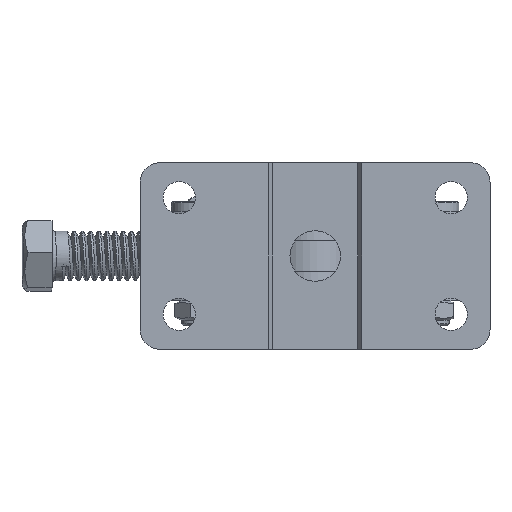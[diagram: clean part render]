
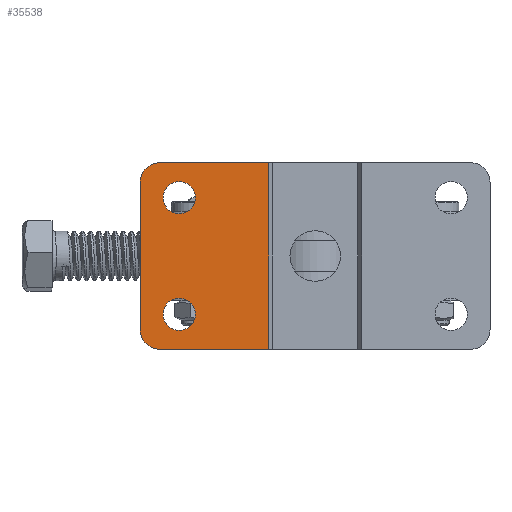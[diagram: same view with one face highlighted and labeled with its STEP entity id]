
A CAD part, front view. The second image highlights one B-rep face of the part: STEP entity #35538.
In plain terms, the highlighted planar face has unit normal (0, -1, 0).
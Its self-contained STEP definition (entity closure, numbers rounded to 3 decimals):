
#1296=FACE_BOUND('',#4655,.T.);
#1297=FACE_BOUND('',#4656,.T.);
#1395=PLANE('',#37860);
#2619=FACE_OUTER_BOUND('',#4654,.T.);
#4654=EDGE_LOOP('',(#24290,#24291,#24292,#24293,#24294,#24295));
#4655=EDGE_LOOP('',(#24296,#24297));
#4656=EDGE_LOOP('',(#24298,#24299));
#6809=LINE('',#50319,#10483);
#6811=LINE('',#50325,#10485);
#6812=LINE('',#50327,#10486);
#6813=LINE('',#50329,#10487);
#10483=VECTOR('',#40862,1000.);
#10485=VECTOR('',#40868,1000.);
#10486=VECTOR('',#40869,1000.);
#10487=VECTOR('',#40870,1000.);
#14107=CIRCLE('',#37803,4.15);
#14108=CIRCLE('',#37804,4.15);
#14119=CIRCLE('',#37818,4.15);
#14120=CIRCLE('',#37819,4.15);
#14148=CIRCLE('',#37861,5.);
#14149=CIRCLE('',#37862,5.);
#15182=VERTEX_POINT('',#50131);
#15183=VERTEX_POINT('',#50132);
#15194=VERTEX_POINT('',#50161);
#15195=VERTEX_POINT('',#50162);
#15258=VERTEX_POINT('',#50316);
#15259=VERTEX_POINT('',#50318);
#15260=VERTEX_POINT('',#50322);
#15261=VERTEX_POINT('',#50324);
#15262=VERTEX_POINT('',#50326);
#15263=VERTEX_POINT('',#50328);
#18702=EDGE_CURVE('',#15182,#15183,#14107,.T.);
#18703=EDGE_CURVE('',#15183,#15182,#14108,.T.);
#18717=EDGE_CURVE('',#15194,#15195,#14119,.T.);
#18718=EDGE_CURVE('',#15195,#15194,#14120,.T.);
#18796=EDGE_CURVE('',#15259,#15258,#6809,.T.);
#18798=EDGE_CURVE('',#15258,#15260,#14148,.T.);
#18799=EDGE_CURVE('',#15260,#15261,#6811,.T.);
#18800=EDGE_CURVE('',#15262,#15261,#6812,.T.);
#18801=EDGE_CURVE('',#15263,#15262,#6813,.T.);
#18802=EDGE_CURVE('',#15263,#15259,#14149,.T.);
#24290=ORIENTED_EDGE('',*,*,#18796,.T.);
#24291=ORIENTED_EDGE('',*,*,#18798,.T.);
#24292=ORIENTED_EDGE('',*,*,#18799,.T.);
#24293=ORIENTED_EDGE('',*,*,#18800,.F.);
#24294=ORIENTED_EDGE('',*,*,#18801,.F.);
#24295=ORIENTED_EDGE('',*,*,#18802,.T.);
#24296=ORIENTED_EDGE('',*,*,#18702,.T.);
#24297=ORIENTED_EDGE('',*,*,#18703,.T.);
#24298=ORIENTED_EDGE('',*,*,#18717,.T.);
#24299=ORIENTED_EDGE('',*,*,#18718,.T.);
#35538=ADVANCED_FACE('',(#2619,#1296,#1297),#1395,.F.);
#37803=AXIS2_PLACEMENT_3D('',#50133,#40695,#40696);
#37804=AXIS2_PLACEMENT_3D('',#50134,#40697,#40698);
#37818=AXIS2_PLACEMENT_3D('',#50163,#40728,#40729);
#37819=AXIS2_PLACEMENT_3D('',#50164,#40730,#40731);
#37860=AXIS2_PLACEMENT_3D('',#50321,#40864,#40865);
#37861=AXIS2_PLACEMENT_3D('',#50323,#40866,#40867);
#37862=AXIS2_PLACEMENT_3D('',#50330,#40871,#40872);
#40695=DIRECTION('center_axis',(0.,1.,0.));
#40696=DIRECTION('ref_axis',(0.,0.,-1.));
#40697=DIRECTION('center_axis',(0.,1.,0.));
#40698=DIRECTION('ref_axis',(0.,0.,-1.));
#40728=DIRECTION('center_axis',(0.,1.,0.));
#40729=DIRECTION('ref_axis',(0.,0.,1.));
#40730=DIRECTION('center_axis',(0.,1.,0.));
#40731=DIRECTION('ref_axis',(0.,0.,1.));
#40862=DIRECTION('',(0.,0.,-1.));
#40864=DIRECTION('center_axis',(0.,1.,0.));
#40865=DIRECTION('ref_axis',(0.,0.,1.));
#40866=DIRECTION('center_axis',(0.,-1.,0.));
#40867=DIRECTION('ref_axis',(0.,0.,1.));
#40868=DIRECTION('',(1.,0.,0.));
#40869=DIRECTION('',(0.,0.,-1.));
#40870=DIRECTION('',(1.,0.,0.));
#40871=DIRECTION('center_axis',(0.,-1.,0.));
#40872=DIRECTION('ref_axis',(0.,0.,1.));
#50131=CARTESIAN_POINT('',(10.,0.,43.15));
#50132=CARTESIAN_POINT('',(10.,0.,34.85));
#50133=CARTESIAN_POINT('Origin',(10.,0.,39.));
#50134=CARTESIAN_POINT('Origin',(10.,0.,39.));
#50161=CARTESIAN_POINT('',(10.,0.,13.15));
#50162=CARTESIAN_POINT('',(10.,0.,4.85));
#50163=CARTESIAN_POINT('Origin',(10.,0.,9.));
#50164=CARTESIAN_POINT('Origin',(10.,0.,9.));
#50316=CARTESIAN_POINT('',(0.,0.,5.));
#50318=CARTESIAN_POINT('',(0.,0.,43.));
#50319=CARTESIAN_POINT('',(0.,0.,48.));
#50321=CARTESIAN_POINT('Origin',(0.,0.,48.));
#50322=CARTESIAN_POINT('',(5.,0.,0.));
#50323=CARTESIAN_POINT('Origin',(5.,0.,5.));
#50324=CARTESIAN_POINT('',(33.,0.,0.));
#50325=CARTESIAN_POINT('',(0.,0.,0.));
#50326=CARTESIAN_POINT('',(33.,0.,48.));
#50327=CARTESIAN_POINT('',(33.,0.,48.));
#50328=CARTESIAN_POINT('',(5.,0.,48.));
#50329=CARTESIAN_POINT('',(0.,0.,48.));
#50330=CARTESIAN_POINT('Origin',(5.,0.,43.));
